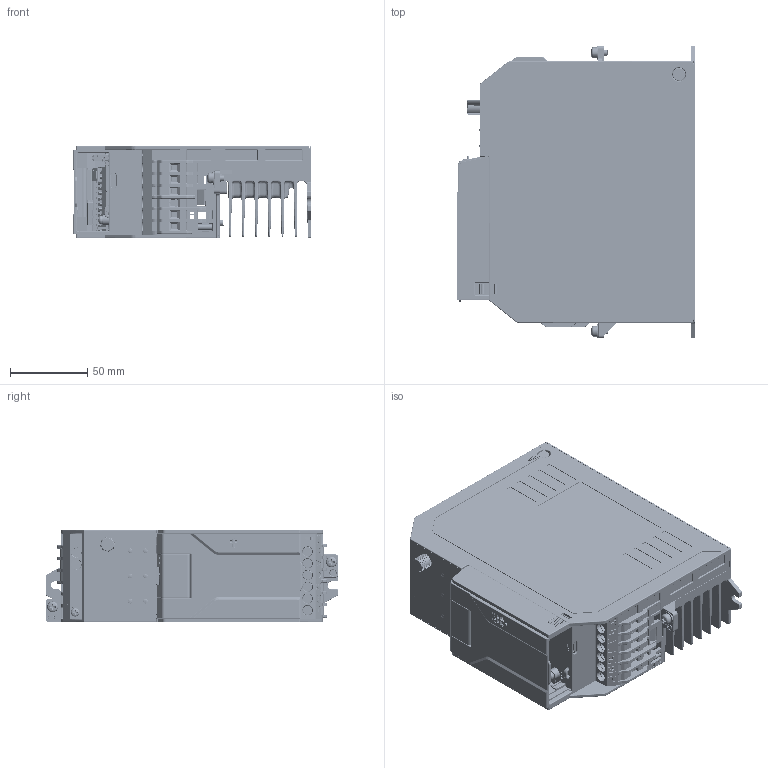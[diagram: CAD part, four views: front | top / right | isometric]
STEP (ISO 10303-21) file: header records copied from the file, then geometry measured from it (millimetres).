
FILE_DESCRIPTION((''),'2;1');
FILE_NAME('ASM0001_ASM_ASM','2025-09-11T11:28:52',('Administrator'),(''),'CREO PARAMETRIC BY PTC INC, 2019080','CREO PARAMETRIC BY PTC INC, 2019080','');
FILE_SCHEMA(('CONFIG_CONTROL_DESIGN'));
Products named in the file (3): GD28_1PH_A_0R2_0R75KW_1_ASM; 408102441; ASM0001_ASM_ASM
Assembly tree (2 placements, depth 2):
  ASM0001_ASM_ASM
    GD28_1PH_A_0R2_0R75KW_1_ASM
    408102441
Bounding box: 155 x 190 x 60 mm (x, y, z)
Volume: 3593.5 mm3; surface area: 339918.2 mm2
Topology: 31 solids, 56 shells, 14241 faces, 39114 edges, 25078 vertices
Faces by surface type: plane 8445, cylinder 3012, extrusion 1241, torus 647, bspline 413, cone 363, sphere 120
Entity records: 492663 total; most frequent: CARTESIAN_POINT 140181, ORIENTED_EDGE 77393, DIRECTION 65525, EDGE_CURVE 38986, VECTOR 27763, LINE 26522, VERTEX_POINT 25077, AXIS2_PLACEMENT_3D 18881
